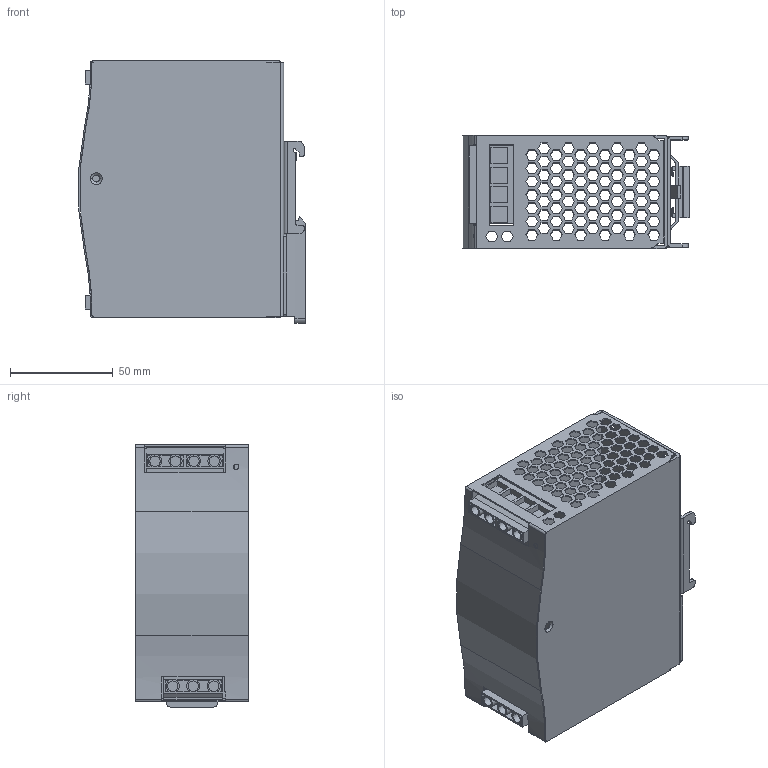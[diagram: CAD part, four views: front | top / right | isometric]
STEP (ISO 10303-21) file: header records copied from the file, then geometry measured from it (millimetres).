
FILE_DESCRIPTION(('Creo Elements/Direct Modeling STEP Export'),'2;1');
FILE_NAME('DR-75.stp','2017-03-06T14:00:43',(''),(''),'PTC Creo Elements/Direct Modeling STEP processor for AP214 (Solid Model)','PTC Creo Elements/Direct Modeling 19.0 09-May-2014 (C) Parametric Technology GmbH','');
FILE_SCHEMA(('AUTOMOTIVE_DESIGN { 1 0 10303 214 1 1 1 1 }'));
Length unit declared in the file: millimetre
Products named in the file (14): ÊW£\; ÝƒÛy; led; a2.1; a1; hs; hs2; pcb2.2; pcb2.1; pcb2; PCB2; PCB1; MOS; DR-75
Assembly tree (13 placements, depth 3):
  DR-75
    MOS
    PCB1
    PCB2
      pcb2
      pcb2.1
      pcb2.2
    hs2
    hs
    a1
      a2.1
      led
      ÝƒÛy
      ÊW£\
Bounding box: 110.41 x 55 x 127.81 mm (x, y, z)
Volume: 87220 mm3; surface area: 113681.2 mm2
Topology: 4 solids, 4 shells, 1505 faces, 4404 edges, 2909 vertices
Faces by surface type: plane 1347, cylinder 144, cone 14
Entity records: 45339 total; most frequent: ORIENTED_EDGE 8808, CARTESIAN_POINT 8221, DIRECTION 5944, EDGE_CURVE 4404, VECTOR 3526, LINE 3526, VERTEX_POINT 2909, EDGE_LOOP 1889
